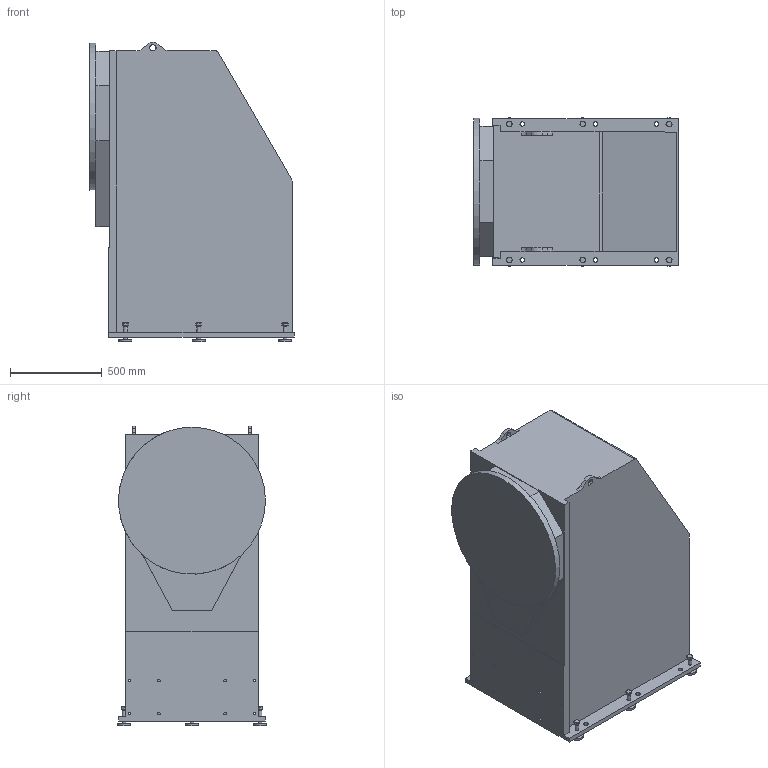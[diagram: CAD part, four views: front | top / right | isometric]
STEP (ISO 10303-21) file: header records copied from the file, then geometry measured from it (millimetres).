
FILE_DESCRIPTION((''),'2;1');
FILE_NAME('S:\Manipulatorer\Produkter\Layout symboler\HSB\114856-101 HSB-2000 SN (STEP).stp','2008-01-18T10:55:56',('Kristian'),(''),'Autodesk Inventor 2008','Autodesk Inventor 2008','');
FILE_SCHEMA(('AUTOMOTIVE_DESIGN { 1 0 10303 214 1 1 1 1 }'));
Length unit declared in the file: millimetre
Products named in the file (2): 114856- HSB-2000 SN (iAssy) (No details); 114856-101 HSB-2000 SN (low-res)
Assembly tree (1 placements, depth 2):
  114856- HSB-2000 SN (iAssy) (No details)
    114856-101 HSB-2000 SN (low-res)
Bounding box: 1114 x 810 x 1629.75 mm (x, y, z)
Volume: 981518793.3 mm3; surface area: 7027068.6 mm2
Topology: 10 solids, 10 shells, 226 faces, 489 edges, 324 vertices
Faces by surface type: plane 125, cylinder 40, bspline 36, cone 25
Full cylindrical faces by diameter (mm): 20 x19, 28.19 x6, 70 x7, 800 x1
Entity records: 6266 total; most frequent: CARTESIAN_POINT 1527, DIRECTION 888, ORIENTED_EDGE 780, EDGE_CURVE 390, EDGE_LOOP 364, AXIS2_PLACEMENT_3D 353, VERTEX_POINT 298, STYLED_ITEM 227
